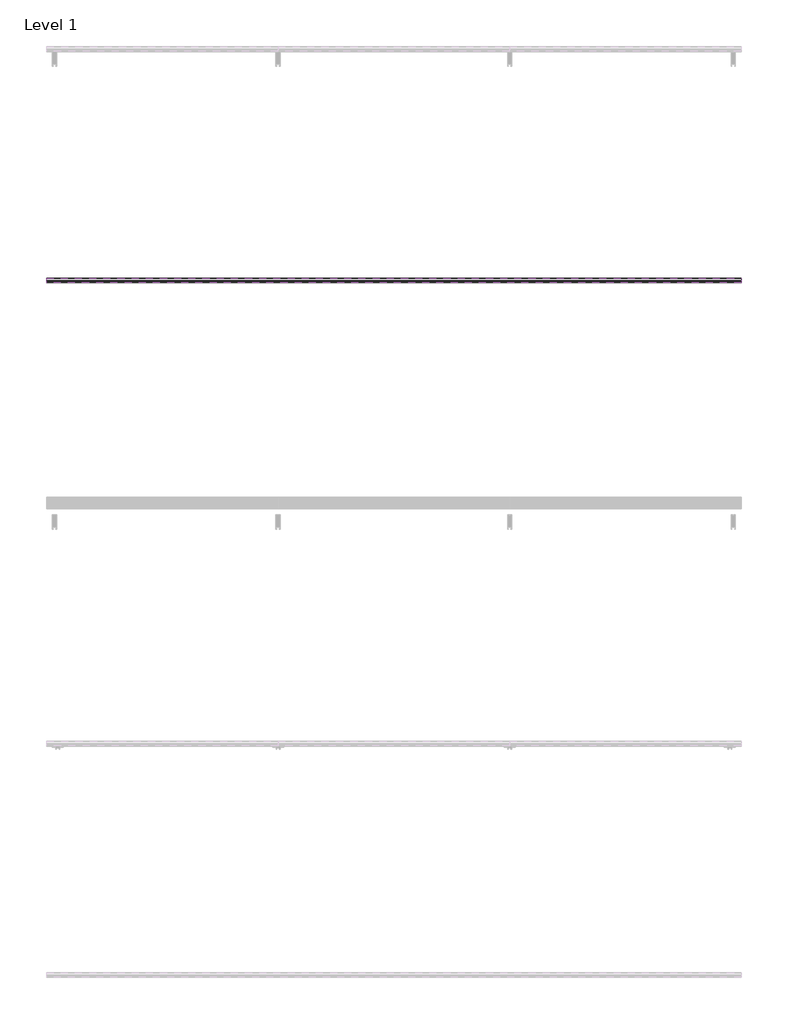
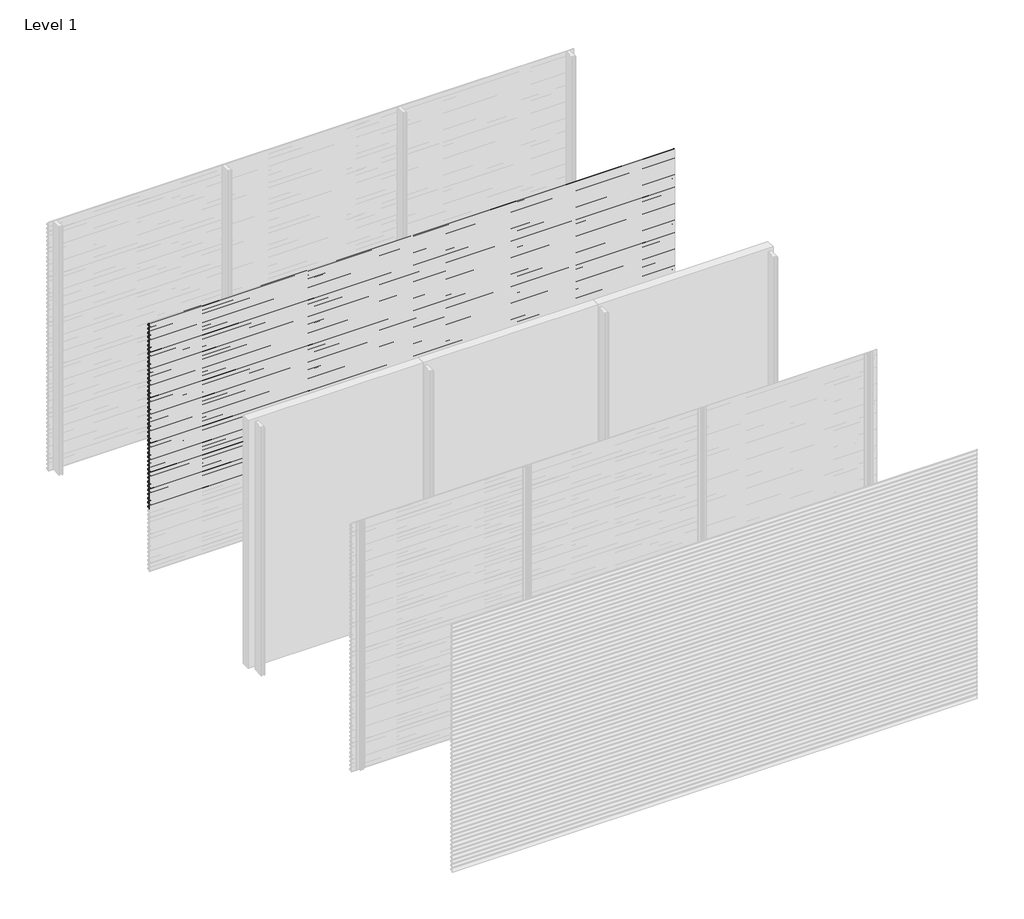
# One storey, part 6 of 38: 66 proxies.
"""IFC4 building model written with IfcOpenShell, lengths in millimetres."""

from ifc_helpers import new_model, si_unit, frame, origin, place, context, project, spatial, polyline, outline, extrude, element, save

model = new_model("IFC4")

# Units and contexts
model_context = context("Model", 3, world=origin())
ifc_project = project(units=[si_unit("LENGTHUNIT", "METRE", prefix="MILLI")], contexts=[model_context])

# Site, building, storey
site = spatial("IfcSite", under=ifc_project)
building = spatial("IfcBuilding", under=site)
storey = spatial("IfcBuildingStorey", under=building, Name="Level 1", Elevation=0.0)

# Proxies
placement = place(None, origin())
element("IfcBuildingElementProxy", 1, Name="Wall Sweeps", at=placement, inside=storey, context=model_context, shape_type="SweptSolid", body=[
    extrude(outline(polyline([(-49996.75, 3000.0), (-49996.75, 2989.19656), (-49974.6057113, 2976.4115489), (-49957.0, 2959.0472005), (-49957.0, 2944.0472005), (-49958.3, 2945.0268207), (-49958.3, 2958.5034593), (-49969.4914725, 2969.541504), (-49994.2797376, 2940.0), (-49995.9767671, 2940.0), (-49970.4200307, 2970.4573323), (-49975.3999793, 2975.3690091), (-49998.0, 2988.4171371), (-49998.0, 3000.0), (-49996.75, 3000.0)])), frame((0.0, 0.0, 0.0), z_axis=(1.0, 0.0, 0.0), x_axis=(0.0, 1.0, 0.0)), (0.0, 0.0, 1.0), 6000.0),
])
element("IfcBuildingElementProxy", 2, Name="Wall Sweeps", at=placement, inside=storey, context=model_context, shape_type="SweptSolid", body=[
    extrude(outline(polyline([(-49996.75, 2950.0), (-49996.75, 2939.19656), (-49974.6057113, 2926.4115489), (-49957.0, 2909.0472005), (-49957.0, 2894.0472005), (-49958.3, 2895.0268207), (-49958.3, 2908.5034593), (-49969.4914725, 2919.541504), (-49994.2797376, 2890.0), (-49995.9767671, 2890.0), (-49970.4200307, 2920.4573323), (-49975.3999793, 2925.3690091), (-49998.0, 2938.4171371), (-49998.0, 2950.0), (-49996.75, 2950.0)])), frame((0.0, 0.0, 0.0), z_axis=(1.0, 0.0, 0.0), x_axis=(0.0, 1.0, 0.0)), (0.0, 0.0, 1.0), 6000.0),
])
element("IfcBuildingElementProxy", 3, Name="Wall Sweeps", at=placement, inside=storey, context=model_context, shape_type="SweptSolid", body=[
    extrude(outline(polyline([(-49996.75, 2900.0), (-49996.75, 2889.19656), (-49974.6057113, 2876.4115489), (-49957.0, 2859.0472005), (-49957.0, 2844.0472005), (-49958.3, 2845.0268207), (-49958.3, 2858.5034593), (-49969.4914725, 2869.541504), (-49994.2797376, 2840.0), (-49995.9767671, 2840.0), (-49970.4200307, 2870.4573323), (-49975.3999793, 2875.3690091), (-49998.0, 2888.4171371), (-49998.0, 2900.0), (-49996.75, 2900.0)])), frame((0.0, 0.0, 0.0), z_axis=(1.0, 0.0, 0.0), x_axis=(0.0, 1.0, 0.0)), (0.0, 0.0, 1.0), 6000.0),
])
element("IfcBuildingElementProxy", 4, Name="Wall Sweeps", at=placement, inside=storey, context=model_context, shape_type="SweptSolid", body=[
    extrude(outline(polyline([(-49996.75, 2850.0), (-49996.75, 2839.19656), (-49974.6057113, 2826.4115489), (-49957.0, 2809.0472005), (-49957.0, 2794.0472005), (-49958.3, 2795.0268207), (-49958.3, 2808.5034593), (-49969.4914725, 2819.541504), (-49994.2797376, 2790.0), (-49995.9767671, 2790.0), (-49970.4200307, 2820.4573323), (-49975.3999793, 2825.3690091), (-49998.0, 2838.4171371), (-49998.0, 2850.0), (-49996.75, 2850.0)])), frame((0.0, 0.0, 0.0), z_axis=(1.0, 0.0, 0.0), x_axis=(0.0, 1.0, 0.0)), (0.0, 0.0, 1.0), 6000.0),
])
element("IfcBuildingElementProxy", 5, Name="Wall Sweeps", at=placement, inside=storey, context=model_context, shape_type="SweptSolid", body=[
    extrude(outline(polyline([(-49996.75, 2800.0), (-49996.75, 2789.19656), (-49974.6057113, 2776.4115489), (-49957.0, 2759.0472005), (-49957.0, 2744.0472005), (-49958.3, 2745.0268207), (-49958.3, 2758.5034593), (-49969.4914725, 2769.541504), (-49994.2797376, 2740.0), (-49995.9767671, 2740.0), (-49970.4200307, 2770.4573323), (-49975.3999793, 2775.3690091), (-49998.0, 2788.4171371), (-49998.0, 2800.0), (-49996.75, 2800.0)])), frame((0.0, 0.0, 0.0), z_axis=(1.0, 0.0, 0.0), x_axis=(0.0, 1.0, 0.0)), (0.0, 0.0, 1.0), 6000.0),
])
element("IfcBuildingElementProxy", 6, Name="Wall Sweeps", at=placement, inside=storey, context=model_context, shape_type="SweptSolid", body=[
    extrude(outline(polyline([(-49996.75, 2750.0), (-49996.75, 2739.19656), (-49974.6057113, 2726.4115489), (-49957.0, 2709.0472005), (-49957.0, 2694.0472005), (-49958.3, 2695.0268207), (-49958.3, 2708.5034593), (-49969.4914725, 2719.541504), (-49994.2797376, 2690.0), (-49995.9767671, 2690.0), (-49970.4200307, 2720.4573323), (-49975.3999793, 2725.3690091), (-49998.0, 2738.4171371), (-49998.0, 2750.0), (-49996.75, 2750.0)])), frame((0.0, 0.0, 0.0), z_axis=(1.0, 0.0, 0.0), x_axis=(0.0, 1.0, 0.0)), (0.0, 0.0, 1.0), 6000.0),
])
element("IfcBuildingElementProxy", 7, Name="Wall Sweeps", at=placement, inside=storey, context=model_context, shape_type="SweptSolid", body=[
    extrude(outline(polyline([(-49996.75, 2700.0), (-49996.75, 2689.19656), (-49974.6057113, 2676.4115489), (-49957.0, 2659.0472005), (-49957.0, 2644.0472005), (-49958.3, 2645.0268207), (-49958.3, 2658.5034593), (-49969.4914725, 2669.541504), (-49994.2797376, 2640.0), (-49995.9767671, 2640.0), (-49970.4200307, 2670.4573323), (-49975.3999793, 2675.3690091), (-49998.0, 2688.4171371), (-49998.0, 2700.0), (-49996.75, 2700.0)])), frame((0.0, 0.0, 0.0), z_axis=(1.0, 0.0, 0.0), x_axis=(0.0, 1.0, 0.0)), (0.0, 0.0, 1.0), 6000.0),
])
element("IfcBuildingElementProxy", 8, Name="Wall Sweeps", at=placement, inside=storey, context=model_context, shape_type="SweptSolid", body=[
    extrude(outline(polyline([(-49996.75, 2650.0), (-49996.75, 2639.19656), (-49974.6057113, 2626.4115489), (-49957.0, 2609.0472005), (-49957.0, 2594.0472005), (-49958.3, 2595.0268207), (-49958.3, 2608.5034593), (-49969.4914725, 2619.541504), (-49994.2797376, 2590.0), (-49995.9767671, 2590.0), (-49970.4200307, 2620.4573323), (-49975.3999793, 2625.3690091), (-49998.0, 2638.4171371), (-49998.0, 2650.0), (-49996.75, 2650.0)])), frame((0.0, 0.0, 0.0), z_axis=(1.0, 0.0, 0.0), x_axis=(0.0, 1.0, 0.0)), (0.0, 0.0, 1.0), 6000.0),
])
element("IfcBuildingElementProxy", 9, Name="Wall Sweeps", at=placement, inside=storey, context=model_context, shape_type="SweptSolid", body=[
    extrude(outline(polyline([(-49996.75, 2600.0), (-49996.75, 2589.19656), (-49974.6057113, 2576.4115489), (-49957.0, 2559.0472005), (-49957.0, 2544.0472005), (-49958.3, 2545.0268207), (-49958.3, 2558.5034593), (-49969.4914725, 2569.541504), (-49994.2797376, 2540.0), (-49995.9767671, 2540.0), (-49970.4200307, 2570.4573323), (-49975.3999793, 2575.3690091), (-49998.0, 2588.4171371), (-49998.0, 2600.0), (-49996.75, 2600.0)])), frame((0.0, 0.0, 0.0), z_axis=(1.0, 0.0, 0.0), x_axis=(0.0, 1.0, 0.0)), (0.0, 0.0, 1.0), 6000.0),
])
element("IfcBuildingElementProxy", 10, Name="Wall Sweeps", at=placement, inside=storey, context=model_context, shape_type="SweptSolid", body=[
    extrude(outline(polyline([(-49996.75, 2550.0), (-49996.75, 2539.19656), (-49974.6057113, 2526.4115489), (-49957.0, 2509.0472005), (-49957.0, 2494.0472005), (-49958.3, 2495.0268207), (-49958.3, 2508.5034593), (-49969.4914725, 2519.541504), (-49994.2797376, 2490.0), (-49995.9767671, 2490.0), (-49970.4200307, 2520.4573323), (-49975.3999793, 2525.3690091), (-49998.0, 2538.4171371), (-49998.0, 2550.0), (-49996.75, 2550.0)])), frame((0.0, 0.0, 0.0), z_axis=(1.0, 0.0, 0.0), x_axis=(0.0, 1.0, 0.0)), (0.0, 0.0, 1.0), 6000.0),
])
element("IfcBuildingElementProxy", 11, Name="Wall Sweeps", at=placement, inside=storey, context=model_context, shape_type="SweptSolid", body=[
    extrude(outline(polyline([(-49996.75, 2500.0), (-49996.75, 2489.19656), (-49974.6057113, 2476.4115489), (-49957.0, 2459.0472005), (-49957.0, 2444.0472005), (-49958.3, 2445.0268207), (-49958.3, 2458.5034593), (-49969.4914725, 2469.541504), (-49994.2797376, 2440.0), (-49995.9767671, 2440.0), (-49970.4200307, 2470.4573323), (-49975.3999793, 2475.3690091), (-49998.0, 2488.4171371), (-49998.0, 2500.0), (-49996.75, 2500.0)])), frame((0.0, 0.0, 0.0), z_axis=(1.0, 0.0, 0.0), x_axis=(0.0, 1.0, 0.0)), (0.0, 0.0, 1.0), 6000.0),
])
element("IfcBuildingElementProxy", 12, Name="Wall Sweeps", at=placement, inside=storey, context=model_context, shape_type="SweptSolid", body=[
    extrude(outline(polyline([(-49996.75, 2450.0), (-49996.75, 2439.19656), (-49974.6057113, 2426.4115489), (-49957.0, 2409.0472005), (-49957.0, 2394.0472005), (-49958.3, 2395.0268207), (-49958.3, 2408.5034593), (-49969.4914725, 2419.541504), (-49994.2797376, 2390.0), (-49995.9767671, 2390.0), (-49970.4200307, 2420.4573323), (-49975.3999793, 2425.3690091), (-49998.0, 2438.4171371), (-49998.0, 2450.0), (-49996.75, 2450.0)])), frame((0.0, 0.0, 0.0), z_axis=(1.0, 0.0, 0.0), x_axis=(0.0, 1.0, 0.0)), (0.0, 0.0, 1.0), 6000.0),
])
element("IfcBuildingElementProxy", 13, Name="Wall Sweeps", at=placement, inside=storey, context=model_context, shape_type="SweptSolid", body=[
    extrude(outline(polyline([(-49996.75, 2400.0), (-49996.75, 2389.19656), (-49974.6057113, 2376.4115489), (-49957.0, 2359.0472005), (-49957.0, 2344.0472005), (-49958.3, 2345.0268207), (-49958.3, 2358.5034593), (-49969.4914725, 2369.541504), (-49994.2797376, 2340.0), (-49995.9767671, 2340.0), (-49970.4200307, 2370.4573323), (-49975.3999793, 2375.3690091), (-49998.0, 2388.4171371), (-49998.0, 2400.0), (-49996.75, 2400.0)])), frame((0.0, 0.0, 0.0), z_axis=(1.0, 0.0, 0.0), x_axis=(0.0, 1.0, 0.0)), (0.0, 0.0, 1.0), 6000.0),
])
element("IfcBuildingElementProxy", 14, Name="Wall Sweeps", at=placement, inside=storey, context=model_context, shape_type="SweptSolid", body=[
    extrude(outline(polyline([(-49996.75, 2350.0), (-49996.75, 2339.19656), (-49974.6057113, 2326.4115489), (-49957.0, 2309.0472005), (-49957.0, 2294.0472005), (-49958.3, 2295.0268207), (-49958.3, 2308.5034593), (-49969.4914725, 2319.541504), (-49994.2797376, 2290.0), (-49995.9767671, 2290.0), (-49970.4200307, 2320.4573323), (-49975.3999793, 2325.3690091), (-49998.0, 2338.4171371), (-49998.0, 2350.0), (-49996.75, 2350.0)])), frame((0.0, 0.0, 0.0), z_axis=(1.0, 0.0, 0.0), x_axis=(0.0, 1.0, 0.0)), (0.0, 0.0, 1.0), 6000.0),
])
element("IfcBuildingElementProxy", 15, Name="Wall Sweeps", at=placement, inside=storey, context=model_context, shape_type="SweptSolid", body=[
    extrude(outline(polyline([(-49996.75, 2300.0), (-49996.75, 2289.19656), (-49974.6057113, 2276.4115489), (-49957.0, 2259.0472005), (-49957.0, 2244.0472005), (-49958.3, 2245.0268207), (-49958.3, 2258.5034593), (-49969.4914725, 2269.541504), (-49994.2797376, 2240.0), (-49995.9767671, 2240.0), (-49970.4200307, 2270.4573323), (-49975.3999793, 2275.3690091), (-49998.0, 2288.4171371), (-49998.0, 2300.0), (-49996.75, 2300.0)])), frame((0.0, 0.0, 0.0), z_axis=(1.0, 0.0, 0.0), x_axis=(0.0, 1.0, 0.0)), (0.0, 0.0, 1.0), 6000.0),
])
element("IfcBuildingElementProxy", 16, Name="Wall Sweeps", at=placement, inside=storey, context=model_context, shape_type="SweptSolid", body=[
    extrude(outline(polyline([(-49996.75, 2250.0), (-49996.75, 2239.19656), (-49974.6057113, 2226.4115489), (-49957.0, 2209.0472005), (-49957.0, 2194.0472005), (-49958.3, 2195.0268207), (-49958.3, 2208.5034593), (-49969.4914725, 2219.541504), (-49994.2797376, 2190.0), (-49995.9767671, 2190.0), (-49970.4200307, 2220.4573323), (-49975.3999793, 2225.3690091), (-49998.0, 2238.4171371), (-49998.0, 2250.0), (-49996.75, 2250.0)])), frame((0.0, 0.0, 0.0), z_axis=(1.0, 0.0, 0.0), x_axis=(0.0, 1.0, 0.0)), (0.0, 0.0, 1.0), 6000.0),
])
element("IfcBuildingElementProxy", 17, Name="Wall Sweeps", at=placement, inside=storey, context=model_context, shape_type="SweptSolid", body=[
    extrude(outline(polyline([(-49996.75, 2200.0), (-49996.75, 2189.19656), (-49974.6057113, 2176.4115489), (-49957.0, 2159.0472005), (-49957.0, 2144.0472005), (-49958.3, 2145.0268207), (-49958.3, 2158.5034593), (-49969.4914725, 2169.541504), (-49994.2797376, 2140.0), (-49995.9767671, 2140.0), (-49970.4200307, 2170.4573323), (-49975.3999793, 2175.3690091), (-49998.0, 2188.4171371), (-49998.0, 2200.0), (-49996.75, 2200.0)])), frame((0.0, 0.0, 0.0), z_axis=(1.0, 0.0, 0.0), x_axis=(0.0, 1.0, 0.0)), (0.0, 0.0, 1.0), 6000.0),
])
element("IfcBuildingElementProxy", 18, Name="Wall Sweeps", at=placement, inside=storey, context=model_context, shape_type="SweptSolid", body=[
    extrude(outline(polyline([(-49996.75, 2150.0), (-49996.75, 2139.19656), (-49974.6057113, 2126.4115489), (-49957.0, 2109.0472005), (-49957.0, 2094.0472005), (-49958.3, 2095.0268207), (-49958.3, 2108.5034593), (-49969.4914725, 2119.541504), (-49994.2797376, 2090.0), (-49995.9767671, 2090.0), (-49970.4200307, 2120.4573323), (-49975.3999793, 2125.3690091), (-49998.0, 2138.4171371), (-49998.0, 2150.0), (-49996.75, 2150.0)])), frame((0.0, 0.0, 0.0), z_axis=(1.0, 0.0, 0.0), x_axis=(0.0, 1.0, 0.0)), (0.0, 0.0, 1.0), 6000.0),
])
element("IfcBuildingElementProxy", 19, Name="Wall Sweeps", at=placement, inside=storey, context=model_context, shape_type="SweptSolid", body=[
    extrude(outline(polyline([(-49996.75, 2100.0), (-49996.75, 2089.19656), (-49974.6057113, 2076.4115489), (-49957.0, 2059.0472005), (-49957.0, 2044.0472005), (-49958.3, 2045.0268207), (-49958.3, 2058.5034593), (-49969.4914725, 2069.541504), (-49994.2797376, 2040.0), (-49995.9767671, 2040.0), (-49970.4200307, 2070.4573323), (-49975.3999793, 2075.3690091), (-49998.0, 2088.4171371), (-49998.0, 2100.0), (-49996.75, 2100.0)])), frame((0.0, 0.0, 0.0), z_axis=(1.0, 0.0, 0.0), x_axis=(0.0, 1.0, 0.0)), (0.0, 0.0, 1.0), 6000.0),
])
element("IfcBuildingElementProxy", 20, Name="Wall Sweeps", at=placement, inside=storey, context=model_context, shape_type="SweptSolid", body=[
    extrude(outline(polyline([(-49996.75, 2050.0), (-49996.75, 2039.19656), (-49974.6057113, 2026.4115489), (-49957.0, 2009.0472005), (-49957.0, 1994.0472005), (-49958.3, 1995.0268207), (-49958.3, 2008.5034593), (-49969.4914725, 2019.541504), (-49994.2797376, 1990.0), (-49995.9767671, 1990.0), (-49970.4200307, 2020.4573323), (-49975.3999793, 2025.3690091), (-49998.0, 2038.4171371), (-49998.0, 2050.0), (-49996.75, 2050.0)])), frame((0.0, 0.0, 0.0), z_axis=(1.0, 0.0, 0.0), x_axis=(0.0, 1.0, 0.0)), (0.0, 0.0, 1.0), 6000.0),
])
element("IfcBuildingElementProxy", 21, Name="Wall Sweeps", at=placement, inside=storey, context=model_context, shape_type="SweptSolid", body=[
    extrude(outline(polyline([(-49996.75, 2000.0), (-49996.75, 1989.19656), (-49974.6057113, 1976.4115489), (-49957.0, 1959.0472005), (-49957.0, 1944.0472005), (-49958.3, 1945.0268207), (-49958.3, 1958.5034593), (-49969.4914725, 1969.541504), (-49994.2797376, 1940.0), (-49995.9767671, 1940.0), (-49970.4200307, 1970.4573323), (-49975.3999793, 1975.3690091), (-49998.0, 1988.4171371), (-49998.0, 2000.0), (-49996.75, 2000.0)])), frame((0.0, 0.0, 0.0), z_axis=(1.0, 0.0, 0.0), x_axis=(0.0, 1.0, 0.0)), (0.0, 0.0, 1.0), 6000.0),
])
element("IfcBuildingElementProxy", 22, Name="Wall Sweeps", at=placement, inside=storey, context=model_context, shape_type="SweptSolid", body=[
    extrude(outline(polyline([(-49996.75, 1950.0), (-49996.75, 1939.19656), (-49974.6057113, 1926.4115489), (-49957.0, 1909.0472005), (-49957.0, 1894.0472005), (-49958.3, 1895.0268207), (-49958.3, 1908.5034593), (-49969.4914725, 1919.541504), (-49994.2797376, 1890.0), (-49995.9767671, 1890.0), (-49970.4200307, 1920.4573323), (-49975.3999793, 1925.3690091), (-49998.0, 1938.4171371), (-49998.0, 1950.0), (-49996.75, 1950.0)])), frame((0.0, 0.0, 0.0), z_axis=(1.0, 0.0, 0.0), x_axis=(0.0, 1.0, 0.0)), (0.0, 0.0, 1.0), 6000.0),
])
element("IfcBuildingElementProxy", 23, Name="Wall Sweeps", at=placement, inside=storey, context=model_context, shape_type="SweptSolid", body=[
    extrude(outline(polyline([(-49996.75, 1900.0), (-49996.75, 1889.19656), (-49974.6057113, 1876.4115489), (-49957.0, 1859.0472005), (-49957.0, 1844.0472005), (-49958.3, 1845.0268207), (-49958.3, 1858.5034593), (-49969.4914725, 1869.541504), (-49994.2797376, 1840.0), (-49995.9767671, 1840.0), (-49970.4200307, 1870.4573323), (-49975.3999793, 1875.3690091), (-49998.0, 1888.4171371), (-49998.0, 1900.0), (-49996.75, 1900.0)])), frame((0.0, 0.0, 0.0), z_axis=(1.0, 0.0, 0.0), x_axis=(0.0, 1.0, 0.0)), (0.0, 0.0, 1.0), 6000.0),
])
element("IfcBuildingElementProxy", 24, Name="Wall Sweeps", at=placement, inside=storey, context=model_context, shape_type="SweptSolid", body=[
    extrude(outline(polyline([(-49996.75, 1850.0), (-49996.75, 1839.19656), (-49974.6057113, 1826.4115489), (-49957.0, 1809.0472005), (-49957.0, 1794.0472005), (-49958.3, 1795.0268207), (-49958.3, 1808.5034593), (-49969.4914725, 1819.541504), (-49994.2797376, 1790.0), (-49995.9767671, 1790.0), (-49970.4200307, 1820.4573323), (-49975.3999793, 1825.3690091), (-49998.0, 1838.4171371), (-49998.0, 1850.0), (-49996.75, 1850.0)])), frame((0.0, 0.0, 0.0), z_axis=(1.0, 0.0, 0.0), x_axis=(0.0, 1.0, 0.0)), (0.0, 0.0, 1.0), 6000.0),
])
element("IfcBuildingElementProxy", 25, Name="Wall Sweeps", at=placement, inside=storey, context=model_context, shape_type="SweptSolid", body=[
    extrude(outline(polyline([(-49996.75, 1800.0), (-49996.75, 1789.19656), (-49974.6057113, 1776.4115489), (-49957.0, 1759.0472005), (-49957.0, 1744.0472005), (-49958.3, 1745.0268207), (-49958.3, 1758.5034593), (-49969.4914725, 1769.541504), (-49994.2797376, 1740.0), (-49995.9767671, 1740.0), (-49970.4200307, 1770.4573323), (-49975.3999793, 1775.3690091), (-49998.0, 1788.4171371), (-49998.0, 1800.0), (-49996.75, 1800.0)])), frame((0.0, 0.0, 0.0), z_axis=(1.0, 0.0, 0.0), x_axis=(0.0, 1.0, 0.0)), (0.0, 0.0, 1.0), 6000.0),
])
element("IfcBuildingElementProxy", 26, Name="Wall Sweeps", at=placement, inside=storey, context=model_context, shape_type="SweptSolid", body=[
    extrude(outline(polyline([(-49996.75, 1750.0), (-49996.75, 1739.19656), (-49974.6057113, 1726.4115489), (-49957.0, 1709.0472005), (-49957.0, 1694.0472005), (-49958.3, 1695.0268207), (-49958.3, 1708.5034593), (-49969.4914725, 1719.541504), (-49994.2797376, 1690.0), (-49995.9767671, 1690.0), (-49970.4200307, 1720.4573323), (-49975.3999793, 1725.3690091), (-49998.0, 1738.4171371), (-49998.0, 1750.0), (-49996.75, 1750.0)])), frame((0.0, 0.0, 0.0), z_axis=(1.0, 0.0, 0.0), x_axis=(0.0, 1.0, 0.0)), (0.0, 0.0, 1.0), 6000.0),
])
element("IfcBuildingElementProxy", 27, Name="Wall Sweeps", at=placement, inside=storey, context=model_context, shape_type="SweptSolid", body=[
    extrude(outline(polyline([(-49996.75, 1700.0), (-49996.75, 1689.19656), (-49974.6057113, 1676.4115489), (-49957.0, 1659.0472005), (-49957.0, 1644.0472005), (-49958.3, 1645.0268207), (-49958.3, 1658.5034593), (-49969.4914725, 1669.541504), (-49994.2797376, 1640.0), (-49995.9767671, 1640.0), (-49970.4200307, 1670.4573323), (-49975.3999793, 1675.3690091), (-49998.0, 1688.4171371), (-49998.0, 1700.0), (-49996.75, 1700.0)])), frame((0.0, 0.0, 0.0), z_axis=(1.0, 0.0, 0.0), x_axis=(0.0, 1.0, 0.0)), (0.0, 0.0, 1.0), 6000.0),
])
element("IfcBuildingElementProxy", 28, Name="Wall Sweeps", at=placement, inside=storey, context=model_context, shape_type="SweptSolid", body=[
    extrude(outline(polyline([(-49996.75, 1650.0), (-49996.75, 1639.19656), (-49974.6057113, 1626.4115489), (-49957.0, 1609.0472005), (-49957.0, 1594.0472005), (-49958.3, 1595.0268207), (-49958.3, 1608.5034593), (-49969.4914725, 1619.541504), (-49994.2797376, 1590.0), (-49995.9767671, 1590.0), (-49970.4200307, 1620.4573323), (-49975.3999793, 1625.3690091), (-49998.0, 1638.4171371), (-49998.0, 1650.0), (-49996.75, 1650.0)])), frame((0.0, 0.0, 0.0), z_axis=(1.0, 0.0, 0.0), x_axis=(0.0, 1.0, 0.0)), (0.0, 0.0, 1.0), 6000.0),
])
element("IfcBuildingElementProxy", 29, Name="Wall Sweeps", at=placement, inside=storey, context=model_context, shape_type="SweptSolid", body=[
    extrude(outline(polyline([(-49996.75, 1600.0), (-49996.75, 1589.19656), (-49974.6057113, 1576.4115489), (-49957.0, 1559.0472005), (-49957.0, 1544.0472005), (-49958.3, 1545.0268207), (-49958.3, 1558.5034593), (-49969.4914725, 1569.541504), (-49994.2797376, 1540.0), (-49995.9767671, 1540.0), (-49970.4200307, 1570.4573323), (-49975.3999793, 1575.3690091), (-49998.0, 1588.4171371), (-49998.0, 1600.0), (-49996.75, 1600.0)])), frame((0.0, 0.0, 0.0), z_axis=(1.0, 0.0, 0.0), x_axis=(0.0, 1.0, 0.0)), (0.0, 0.0, 1.0), 6000.0),
])
element("IfcBuildingElementProxy", 30, Name="Wall Sweeps", at=placement, inside=storey, context=model_context, shape_type="SweptSolid", body=[
    extrude(outline(polyline([(-49996.75, 1550.0), (-49996.75, 1539.19656), (-49974.6057113, 1526.4115489), (-49957.0, 1509.0472005), (-49957.0, 1494.0472005), (-49958.3, 1495.0268207), (-49958.3, 1508.5034593), (-49969.4914725, 1519.541504), (-49994.2797376, 1490.0), (-49995.9767671, 1490.0), (-49970.4200307, 1520.4573323), (-49975.3999793, 1525.3690091), (-49998.0, 1538.4171371), (-49998.0, 1550.0), (-49996.75, 1550.0)])), frame((0.0, 0.0, 0.0), z_axis=(1.0, 0.0, 0.0), x_axis=(0.0, 1.0, 0.0)), (0.0, 0.0, 1.0), 6000.0),
])
element("IfcBuildingElementProxy", 31, Name="Wall Sweeps", at=placement, inside=storey, context=model_context, shape_type="SweptSolid", body=[
    extrude(outline(polyline([(-49996.75, 1500.0), (-49996.75, 1489.19656), (-49974.6057113, 1476.4115489), (-49957.0, 1459.0472005), (-49957.0, 1444.0472005), (-49958.3, 1445.0268207), (-49958.3, 1458.5034593), (-49969.4914725, 1469.541504), (-49994.2797376, 1440.0), (-49995.9767671, 1440.0), (-49970.4200307, 1470.4573323), (-49975.3999793, 1475.3690091), (-49998.0, 1488.4171371), (-49998.0, 1500.0), (-49996.75, 1500.0)])), frame((0.0, 0.0, 0.0), z_axis=(1.0, 0.0, 0.0), x_axis=(0.0, 1.0, 0.0)), (0.0, 0.0, 1.0), 6000.0),
])
element("IfcBuildingElementProxy", 32, Name="Wall Sweeps", at=placement, inside=storey, context=model_context, shape_type="SweptSolid", body=[
    extrude(outline(polyline([(-49996.75, 1450.0), (-49996.75, 1439.19656), (-49974.6057113, 1426.4115489), (-49957.0, 1409.0472005), (-49957.0, 1394.0472005), (-49958.3, 1395.0268207), (-49958.3, 1408.5034593), (-49969.4914725, 1419.541504), (-49994.2797376, 1390.0), (-49995.9767671, 1390.0), (-49970.4200307, 1420.4573323), (-49975.3999793, 1425.3690091), (-49998.0, 1438.4171371), (-49998.0, 1450.0), (-49996.75, 1450.0)])), frame((0.0, 0.0, 0.0), z_axis=(1.0, 0.0, 0.0), x_axis=(0.0, 1.0, 0.0)), (0.0, 0.0, 1.0), 6000.0),
])
element("IfcBuildingElementProxy", 33, Name="Wall Sweeps", at=placement, inside=storey, context=model_context, shape_type="SweptSolid", body=[
    extrude(outline(polyline([(-49996.75, 1400.0), (-49996.75, 1389.19656), (-49974.6057113, 1376.4115489), (-49957.0, 1359.0472005), (-49957.0, 1344.0472005), (-49958.3, 1345.0268207), (-49958.3, 1358.5034593), (-49969.4914725, 1369.541504), (-49994.2797376, 1340.0), (-49995.9767671, 1340.0), (-49970.4200307, 1370.4573323), (-49975.3999793, 1375.3690091), (-49998.0, 1388.4171371), (-49998.0, 1400.0), (-49996.75, 1400.0)])), frame((0.0, 0.0, 0.0), z_axis=(1.0, 0.0, 0.0), x_axis=(0.0, 1.0, 0.0)), (0.0, 0.0, 1.0), 6000.0),
])
element("IfcBuildingElementProxy", 34, Name="Wall Sweeps", at=placement, inside=storey, context=model_context, shape_type="SweptSolid", body=[
    extrude(outline(polyline([(-49996.75, 1350.0), (-49996.75, 1339.19656), (-49974.6057113, 1326.4115489), (-49957.0, 1309.0472005), (-49957.0, 1294.0472005), (-49958.3, 1295.0268207), (-49958.3, 1308.5034593), (-49969.4914725, 1319.541504), (-49994.2797376, 1290.0), (-49995.9767671, 1290.0), (-49970.4200307, 1320.4573323), (-49975.3999793, 1325.3690091), (-49998.0, 1338.4171371), (-49998.0, 1350.0), (-49996.75, 1350.0)])), frame((0.0, 0.0, 0.0), z_axis=(1.0, 0.0, 0.0), x_axis=(0.0, 1.0, 0.0)), (0.0, 0.0, 1.0), 6000.0),
])
element("IfcBuildingElementProxy", 35, Name="Wall Sweeps", at=placement, inside=storey, context=model_context, shape_type="SweptSolid", body=[
    extrude(outline(polyline([(-49996.75, 1300.0), (-49996.75, 1289.19656), (-49974.6057113, 1276.4115489), (-49957.0, 1259.0472005), (-49957.0, 1244.0472005), (-49958.3, 1245.0268207), (-49958.3, 1258.5034593), (-49969.4914725, 1269.541504), (-49994.2797376, 1240.0), (-49995.9767671, 1240.0), (-49970.4200307, 1270.4573323), (-49975.3999793, 1275.3690091), (-49998.0, 1288.4171371), (-49998.0, 1300.0), (-49996.75, 1300.0)])), frame((0.0, 0.0, 0.0), z_axis=(1.0, 0.0, 0.0), x_axis=(0.0, 1.0, 0.0)), (0.0, 0.0, 1.0), 6000.0),
])
element("IfcBuildingElementProxy", 36, Name="Wall Sweeps", at=placement, inside=storey, context=model_context, shape_type="SweptSolid", body=[
    extrude(outline(polyline([(-49996.75, 1250.0), (-49996.75, 1239.19656), (-49974.6057113, 1226.4115489), (-49957.0, 1209.0472005), (-49957.0, 1194.0472005), (-49958.3, 1195.0268207), (-49958.3, 1208.5034593), (-49969.4914725, 1219.541504), (-49994.2797376, 1190.0), (-49995.9767671, 1190.0), (-49970.4200307, 1220.4573323), (-49975.3999793, 1225.3690091), (-49998.0, 1238.4171371), (-49998.0, 1250.0), (-49996.75, 1250.0)])), frame((0.0, 0.0, 0.0), z_axis=(1.0, 0.0, 0.0), x_axis=(0.0, 1.0, 0.0)), (0.0, 0.0, 1.0), 6000.0),
])
element("IfcBuildingElementProxy", 37, Name="Wall Sweeps", at=placement, inside=storey, context=model_context, shape_type="SweptSolid", body=[
    extrude(outline(polyline([(-49996.75, 1200.0), (-49996.75, 1189.19656), (-49974.6057113, 1176.4115489), (-49957.0, 1159.0472005), (-49957.0, 1144.0472005), (-49958.3, 1145.0268207), (-49958.3, 1158.5034593), (-49969.4914725, 1169.541504), (-49994.2797376, 1140.0), (-49995.9767671, 1140.0), (-49970.4200307, 1170.4573323), (-49975.3999793, 1175.3690091), (-49998.0, 1188.4171371), (-49998.0, 1200.0), (-49996.75, 1200.0)])), frame((0.0, 0.0, 0.0), z_axis=(1.0, 0.0, 0.0), x_axis=(0.0, 1.0, 0.0)), (0.0, 0.0, 1.0), 6000.0),
])
element("IfcBuildingElementProxy", 38, Name="Wall Sweeps", at=placement, inside=storey, context=model_context, shape_type="SweptSolid", body=[
    extrude(outline(polyline([(-49996.75, 1150.0), (-49996.75, 1139.19656), (-49974.6057113, 1126.4115489), (-49957.0, 1109.0472005), (-49957.0, 1094.0472005), (-49958.3, 1095.0268207), (-49958.3, 1108.5034593), (-49969.4914725, 1119.541504), (-49994.2797376, 1090.0), (-49995.9767671, 1090.0), (-49970.4200307, 1120.4573323), (-49975.3999793, 1125.3690091), (-49998.0, 1138.4171371), (-49998.0, 1150.0), (-49996.75, 1150.0)])), frame((0.0, 0.0, 0.0), z_axis=(1.0, 0.0, 0.0), x_axis=(0.0, 1.0, 0.0)), (0.0, 0.0, 1.0), 6000.0),
])
element("IfcBuildingElementProxy", 39, Name="Wall Sweeps", at=placement, inside=storey, context=model_context, shape_type="SweptSolid", body=[
    extrude(outline(polyline([(-49996.75, 1100.0), (-49996.75, 1089.19656), (-49974.6057113, 1076.4115489), (-49957.0, 1059.0472005), (-49957.0, 1044.0472005), (-49958.3, 1045.0268207), (-49958.3, 1058.5034593), (-49969.4914725, 1069.541504), (-49994.2797376, 1040.0), (-49995.9767671, 1040.0), (-49970.4200307, 1070.4573323), (-49975.3999793, 1075.3690091), (-49998.0, 1088.4171371), (-49998.0, 1100.0), (-49996.75, 1100.0)])), frame((0.0, 0.0, 0.0), z_axis=(1.0, 0.0, 0.0), x_axis=(0.0, 1.0, 0.0)), (0.0, 0.0, 1.0), 6000.0),
])
element("IfcBuildingElementProxy", 40, Name="Wall Sweeps", at=placement, inside=storey, context=model_context, shape_type="SweptSolid", body=[
    extrude(outline(polyline([(-49996.75, 1050.0), (-49996.75, 1039.19656), (-49974.6057113, 1026.4115489), (-49957.0, 1009.0472005), (-49957.0, 994.0472005), (-49958.3, 995.0268207), (-49958.3, 1008.5034593), (-49969.4914725, 1019.541504), (-49994.2797376, 990.0), (-49995.9767671, 990.0), (-49970.4200307, 1020.4573323), (-49975.3999793, 1025.3690091), (-49998.0, 1038.4171371), (-49998.0, 1050.0), (-49996.75, 1050.0)])), frame((0.0, 0.0, 0.0), z_axis=(1.0, 0.0, 0.0), x_axis=(0.0, 1.0, 0.0)), (0.0, 0.0, 1.0), 6000.0),
])
element("IfcBuildingElementProxy", 41, Name="Wall Sweeps", at=placement, inside=storey, context=model_context, shape_type="SweptSolid", body=[
    extrude(outline(polyline([(-49996.75, 1000.0), (-49996.75, 989.19656), (-49974.6057113, 976.4115489), (-49957.0, 959.0472005), (-49957.0, 944.0472005), (-49958.3, 945.0268207), (-49958.3, 958.5034593), (-49969.4914725, 969.541504), (-49994.2797376, 940.0), (-49995.9767671, 940.0), (-49970.4200307, 970.4573323), (-49975.3999793, 975.3690091), (-49998.0, 988.4171371), (-49998.0, 1000.0), (-49996.75, 1000.0)])), frame((0.0, 0.0, 0.0), z_axis=(1.0, 0.0, 0.0), x_axis=(0.0, 1.0, 0.0)), (0.0, 0.0, 1.0), 6000.0),
])
element("IfcBuildingElementProxy", 42, Name="Wall Sweeps", at=placement, inside=storey, context=model_context, shape_type="SweptSolid", body=[
    extrude(outline(polyline([(-49996.75, 950.0), (-49996.75, 939.19656), (-49974.6057113, 926.4115489), (-49957.0, 909.0472005), (-49957.0, 894.0472005), (-49958.3, 895.0268207), (-49958.3, 908.5034593), (-49969.4914725, 919.541504), (-49994.2797376, 890.0), (-49995.9767671, 890.0), (-49970.4200307, 920.4573323), (-49975.3999793, 925.3690091), (-49998.0, 938.4171371), (-49998.0, 950.0), (-49996.75, 950.0)])), frame((0.0, 0.0, 0.0), z_axis=(1.0, 0.0, 0.0), x_axis=(0.0, 1.0, 0.0)), (0.0, 0.0, 1.0), 6000.0),
])
element("IfcBuildingElementProxy", 43, Name="Wall Sweeps", at=placement, inside=storey, context=model_context, shape_type="SweptSolid", body=[
    extrude(outline(polyline([(-49996.75, 900.0), (-49996.75, 889.19656), (-49974.6057113, 876.4115489), (-49957.0, 859.0472005), (-49957.0, 844.0472005), (-49958.3, 845.0268207), (-49958.3, 858.5034593), (-49969.4914725, 869.541504), (-49994.2797376, 840.0), (-49995.9767671, 840.0), (-49970.4200307, 870.4573323), (-49975.3999793, 875.3690091), (-49998.0, 888.4171371), (-49998.0, 900.0), (-49996.75, 900.0)])), frame((0.0, 0.0, 0.0), z_axis=(1.0, 0.0, 0.0), x_axis=(0.0, 1.0, 0.0)), (0.0, 0.0, 1.0), 6000.0),
])
element("IfcBuildingElementProxy", 44, Name="Wall Sweeps", at=placement, inside=storey, context=model_context, shape_type="SweptSolid", body=[
    extrude(outline(polyline([(-49996.75, 850.0), (-49996.75, 839.19656), (-49974.6057113, 826.4115489), (-49957.0, 809.0472005), (-49957.0, 794.0472005), (-49958.3, 795.0268207), (-49958.3, 808.5034593), (-49969.4914725, 819.541504), (-49994.2797376, 790.0), (-49995.9767671, 790.0), (-49970.4200307, 820.4573323), (-49975.3999793, 825.3690091), (-49998.0, 838.4171371), (-49998.0, 850.0), (-49996.75, 850.0)])), frame((0.0, 0.0, 0.0), z_axis=(1.0, 0.0, 0.0), x_axis=(0.0, 1.0, 0.0)), (0.0, 0.0, 1.0), 6000.0),
])
element("IfcBuildingElementProxy", 45, Name="Wall Sweeps", at=placement, inside=storey, context=model_context, shape_type="SweptSolid", body=[
    extrude(outline(polyline([(-49996.75, 800.0), (-49996.75, 789.19656), (-49974.6057113, 776.4115489), (-49957.0, 759.0472005), (-49957.0, 744.0472005), (-49958.3, 745.0268207), (-49958.3, 758.5034593), (-49969.4914725, 769.541504), (-49994.2797376, 740.0), (-49995.9767671, 740.0), (-49970.4200307, 770.4573323), (-49975.3999793, 775.3690091), (-49998.0, 788.4171371), (-49998.0, 800.0), (-49996.75, 800.0)])), frame((0.0, 0.0, 0.0), z_axis=(1.0, 0.0, 0.0), x_axis=(0.0, 1.0, 0.0)), (0.0, 0.0, 1.0), 6000.0),
])
element("IfcBuildingElementProxy", 46, Name="Wall Sweeps", at=placement, inside=storey, context=model_context, shape_type="SweptSolid", body=[
    extrude(outline(polyline([(-53996.75, 1050.0), (-53996.75, 1039.19656), (-53974.6057113, 1026.4115489), (-53957.0, 1009.0472005), (-53957.0, 994.0472005), (-53958.3, 995.0268207), (-53958.3, 1008.5034593), (-53969.4914725, 1019.541504), (-53994.2797376, 990.0), (-53995.9767671, 990.0), (-53970.4200307, 1020.4573323), (-53975.3999793, 1025.3690091), (-53998.0, 1038.4171371), (-53998.0, 1050.0), (-53996.75, 1050.0)])), frame((4000.0, 0.0, 0.0), z_axis=(1.0, 0.0, 0.0), x_axis=(0.0, 1.0, 0.0)), (0.0, 0.0, 1.0), 2000.0),
])
element("IfcBuildingElementProxy", 47, Name="Wall Sweeps", at=placement, inside=storey, context=model_context, shape_type="SweptSolid", body=[
    extrude(outline(polyline([(-53996.75, 1000.0), (-53996.75, 989.19656), (-53974.6057113, 976.4115489), (-53957.0, 959.0472005), (-53957.0, 944.0472005), (-53958.3, 945.0268207), (-53958.3, 958.5034593), (-53969.4914725, 969.541504), (-53994.2797376, 940.0), (-53995.9767671, 940.0), (-53970.4200307, 970.4573323), (-53975.3999793, 975.3690091), (-53998.0, 988.4171371), (-53998.0, 1000.0), (-53996.75, 1000.0)])), frame((4000.0, 0.0, 0.0), z_axis=(1.0, 0.0, 0.0), x_axis=(0.0, 1.0, 0.0)), (0.0, 0.0, 1.0), 2000.0),
])
element("IfcBuildingElementProxy", 48, Name="Wall Sweeps", at=placement, inside=storey, context=model_context, shape_type="SweptSolid", body=[
    extrude(outline(polyline([(-53996.75, 950.0), (-53996.75, 939.19656), (-53974.6057113, 926.4115489), (-53957.0, 909.0472005), (-53957.0, 894.0472005), (-53958.3, 895.0268207), (-53958.3, 908.5034593), (-53969.4914725, 919.541504), (-53994.2797376, 890.0), (-53995.9767671, 890.0), (-53970.4200307, 920.4573323), (-53975.3999793, 925.3690091), (-53998.0, 938.4171371), (-53998.0, 950.0), (-53996.75, 950.0)])), frame((4000.0, 0.0, 0.0), z_axis=(1.0, 0.0, 0.0), x_axis=(0.0, 1.0, 0.0)), (0.0, 0.0, 1.0), 2000.0),
])
element("IfcBuildingElementProxy", 49, Name="Wall Sweeps", at=placement, inside=storey, context=model_context, shape_type="SweptSolid", body=[
    extrude(outline(polyline([(-53996.75, 900.0), (-53996.75, 889.19656), (-53974.6057113, 876.4115489), (-53957.0, 859.0472005), (-53957.0, 844.0472005), (-53958.3, 845.0268207), (-53958.3, 858.5034593), (-53969.4914725, 869.541504), (-53994.2797376, 840.0), (-53995.9767671, 840.0), (-53970.4200307, 870.4573323), (-53975.3999793, 875.3690091), (-53998.0, 888.4171371), (-53998.0, 900.0), (-53996.75, 900.0)])), frame((4000.0, 0.0, 0.0), z_axis=(1.0, 0.0, 0.0), x_axis=(0.0, 1.0, 0.0)), (0.0, 0.0, 1.0), 2000.0),
])
element("IfcBuildingElementProxy", 50, Name="Wall Sweeps", at=placement, inside=storey, context=model_context, shape_type="SweptSolid", body=[
    extrude(outline(polyline([(-53996.75, 850.0), (-53996.75, 839.19656), (-53974.6057113, 826.4115489), (-53957.0, 809.0472005), (-53957.0, 794.0472005), (-53958.3, 795.0268207), (-53958.3, 808.5034593), (-53969.4914725, 819.541504), (-53994.2797376, 790.0), (-53995.9767671, 790.0), (-53970.4200307, 820.4573323), (-53975.3999793, 825.3690091), (-53998.0, 838.4171371), (-53998.0, 850.0), (-53996.75, 850.0)])), frame((4000.0, 0.0, 0.0), z_axis=(1.0, 0.0, 0.0), x_axis=(0.0, 1.0, 0.0)), (0.0, 0.0, 1.0), 2000.0),
])
element("IfcBuildingElementProxy", 51, Name="Wall Sweeps", at=placement, inside=storey, context=model_context, shape_type="SweptSolid", body=[
    extrude(outline(polyline([(-53996.75, 800.0), (-53996.75, 789.19656), (-53974.6057113, 776.4115489), (-53957.0, 759.0472005), (-53957.0, 744.0472005), (-53958.3, 745.0268207), (-53958.3, 758.5034593), (-53969.4914725, 769.541504), (-53994.2797376, 740.0), (-53995.9767671, 740.0), (-53970.4200307, 770.4573323), (-53975.3999793, 775.3690091), (-53998.0, 788.4171371), (-53998.0, 800.0), (-53996.75, 800.0)])), frame((4000.0, 0.0, 0.0), z_axis=(1.0, 0.0, 0.0), x_axis=(0.0, 1.0, 0.0)), (0.0, 0.0, 1.0), 2000.0),
])
element("IfcBuildingElementProxy", 52, Name="Wall Sweeps", at=placement, inside=storey, context=model_context, shape_type="SweptSolid", body=[
    extrude(outline(polyline([(-53996.75, 750.0), (-53996.75, 739.19656), (-53974.6057113, 726.4115489), (-53957.0, 709.0472005), (-53957.0, 694.0472005), (-53958.3, 695.0268207), (-53958.3, 708.5034593), (-53969.4914725, 719.541504), (-53994.2797376, 690.0), (-53995.9767671, 690.0), (-53970.4200307, 720.4573323), (-53975.3999793, 725.3690091), (-53998.0, 738.4171371), (-53998.0, 750.0), (-53996.75, 750.0)])), frame((4000.0, 0.0, 0.0), z_axis=(1.0, 0.0, 0.0), x_axis=(0.0, 1.0, 0.0)), (0.0, 0.0, 1.0), 2000.0),
])
element("IfcBuildingElementProxy", 53, Name="Wall Sweeps", at=placement, inside=storey, context=model_context, shape_type="SweptSolid", body=[
    extrude(outline(polyline([(-53996.75, 700.0), (-53996.75, 689.19656), (-53974.6057113, 676.4115489), (-53957.0, 659.0472005), (-53957.0, 644.0472005), (-53958.3, 645.0268207), (-53958.3, 658.5034593), (-53969.4914725, 669.541504), (-53994.2797376, 640.0), (-53995.9767671, 640.0), (-53970.4200307, 670.4573323), (-53975.3999793, 675.3690091), (-53998.0, 688.4171371), (-53998.0, 700.0), (-53996.75, 700.0)])), frame((4000.0, 0.0, 0.0), z_axis=(1.0, 0.0, 0.0), x_axis=(0.0, 1.0, 0.0)), (0.0, 0.0, 1.0), 2000.0),
])
element("IfcBuildingElementProxy", 54, Name="Wall Sweeps", at=placement, inside=storey, context=model_context, shape_type="SweptSolid", body=[
    extrude(outline(polyline([(-53996.75, 650.0), (-53996.75, 639.19656), (-53974.6057113, 626.4115489), (-53957.0, 609.0472005), (-53957.0, 594.0472005), (-53958.3, 595.0268207), (-53958.3, 608.5034593), (-53969.4914725, 619.541504), (-53994.2797376, 590.0), (-53995.9767671, 590.0), (-53970.4200307, 620.4573323), (-53975.3999793, 625.3690091), (-53998.0, 638.4171371), (-53998.0, 650.0), (-53996.75, 650.0)])), frame((4000.0, 0.0, 0.0), z_axis=(1.0, 0.0, 0.0), x_axis=(0.0, 1.0, 0.0)), (0.0, 0.0, 1.0), 2000.0),
])
element("IfcBuildingElementProxy", 55, Name="Wall Sweeps", at=placement, inside=storey, context=model_context, shape_type="SweptSolid", body=[
    extrude(outline(polyline([(-53996.75, 600.0), (-53996.75, 589.19656), (-53974.6057113, 576.4115489), (-53957.0, 559.0472005), (-53957.0, 544.0472005), (-53958.3, 545.0268207), (-53958.3, 558.5034593), (-53969.4914725, 569.541504), (-53994.2797376, 540.0), (-53995.9767671, 540.0), (-53970.4200307, 570.4573323), (-53975.3999793, 575.3690091), (-53998.0, 588.4171371), (-53998.0, 600.0), (-53996.75, 600.0)])), frame((4000.0, 0.0, 0.0), z_axis=(1.0, 0.0, 0.0), x_axis=(0.0, 1.0, 0.0)), (0.0, 0.0, 1.0), 2000.0),
])
element("IfcBuildingElementProxy", 56, Name="Wall Sweeps", at=placement, inside=storey, context=model_context, shape_type="SweptSolid", body=[
    extrude(outline(polyline([(-53996.75, 550.0), (-53996.75, 539.19656), (-53974.6057113, 526.4115489), (-53957.0, 509.0472005), (-53957.0, 494.0472005), (-53958.3, 495.0268207), (-53958.3, 508.5034593), (-53969.4914725, 519.541504), (-53994.2797376, 490.0), (-53995.9767671, 490.0), (-53970.4200307, 520.4573323), (-53975.3999793, 525.3690091), (-53998.0, 538.4171371), (-53998.0, 550.0), (-53996.75, 550.0)])), frame((4000.0, 0.0, 0.0), z_axis=(1.0, 0.0, 0.0), x_axis=(0.0, 1.0, 0.0)), (0.0, 0.0, 1.0), 2000.0),
])
element("IfcBuildingElementProxy", 57, Name="Wall Sweeps", at=placement, inside=storey, context=model_context, shape_type="SweptSolid", body=[
    extrude(outline(polyline([(-53996.75, 500.0), (-53996.75, 489.19656), (-53974.6057113, 476.4115489), (-53957.0, 459.0472005), (-53957.0, 444.0472005), (-53958.3, 445.0268207), (-53958.3, 458.5034593), (-53969.4914725, 469.541504), (-53994.2797376, 440.0), (-53995.9767671, 440.0), (-53970.4200307, 470.4573323), (-53975.3999793, 475.3690091), (-53998.0, 488.4171371), (-53998.0, 500.0), (-53996.75, 500.0)])), frame((4000.0, 0.0, 0.0), z_axis=(1.0, 0.0, 0.0), x_axis=(0.0, 1.0, 0.0)), (0.0, 0.0, 1.0), 2000.0),
])
element("IfcBuildingElementProxy", 58, Name="Wall Sweeps", at=placement, inside=storey, context=model_context, shape_type="SweptSolid", body=[
    extrude(outline(polyline([(-53996.75, 450.0), (-53996.75, 439.19656), (-53974.6057113, 426.4115489), (-53957.0, 409.0472005), (-53957.0, 394.0472005), (-53958.3, 395.0268207), (-53958.3, 408.5034593), (-53969.4914725, 419.541504), (-53994.2797376, 390.0), (-53995.9767671, 390.0), (-53970.4200307, 420.4573323), (-53975.3999793, 425.3690091), (-53998.0, 438.4171371), (-53998.0, 450.0), (-53996.75, 450.0)])), frame((4000.0, 0.0, 0.0), z_axis=(1.0, 0.0, 0.0), x_axis=(0.0, 1.0, 0.0)), (0.0, 0.0, 1.0), 2000.0),
])
element("IfcBuildingElementProxy", 59, Name="Wall Sweeps", at=placement, inside=storey, context=model_context, shape_type="SweptSolid", body=[
    extrude(outline(polyline([(-53996.75, 400.0), (-53996.75, 389.19656), (-53974.6057113, 376.4115489), (-53957.0, 359.0472005), (-53957.0, 344.0472005), (-53958.3, 345.0268207), (-53958.3, 358.5034593), (-53969.4914725, 369.541504), (-53994.2797376, 340.0), (-53995.9767671, 340.0), (-53970.4200307, 370.4573323), (-53975.3999793, 375.3690091), (-53998.0, 388.4171371), (-53998.0, 400.0), (-53996.75, 400.0)])), frame((4000.0, 0.0, 0.0), z_axis=(1.0, 0.0, 0.0), x_axis=(0.0, 1.0, 0.0)), (0.0, 0.0, 1.0), 2000.0),
])
element("IfcBuildingElementProxy", 60, Name="Wall Sweeps", at=placement, inside=storey, context=model_context, shape_type="SweptSolid", body=[
    extrude(outline(polyline([(-53996.75, 350.0), (-53996.75, 339.19656), (-53974.6057113, 326.4115489), (-53957.0, 309.0472005), (-53957.0, 294.0472005), (-53958.3, 295.0268207), (-53958.3, 308.5034593), (-53969.4914725, 319.541504), (-53994.2797376, 290.0), (-53995.9767671, 290.0), (-53970.4200307, 320.4573323), (-53975.3999793, 325.3690091), (-53998.0, 338.4171371), (-53998.0, 350.0), (-53996.75, 350.0)])), frame((4000.0, 0.0, 0.0), z_axis=(1.0, 0.0, 0.0), x_axis=(0.0, 1.0, 0.0)), (0.0, 0.0, 1.0), 2000.0),
])
element("IfcBuildingElementProxy", 61, Name="Wall Sweeps", at=placement, inside=storey, context=model_context, shape_type="SweptSolid", body=[
    extrude(outline(polyline([(-53996.75, 300.0), (-53996.75, 289.19656), (-53974.6057113, 276.4115489), (-53957.0, 259.0472005), (-53957.0, 244.0472005), (-53958.3, 245.0268207), (-53958.3, 258.5034593), (-53969.4914725, 269.541504), (-53994.2797376, 240.0), (-53995.9767671, 240.0), (-53970.4200307, 270.4573323), (-53975.3999793, 275.3690091), (-53998.0, 288.4171371), (-53998.0, 300.0), (-53996.75, 300.0)])), frame((4000.0, 0.0, 0.0), z_axis=(1.0, 0.0, 0.0), x_axis=(0.0, 1.0, 0.0)), (0.0, 0.0, 1.0), 2000.0),
])
element("IfcBuildingElementProxy", 62, Name="Wall Sweeps", at=placement, inside=storey, context=model_context, shape_type="SweptSolid", body=[
    extrude(outline(polyline([(-53996.75, 250.0), (-53996.75, 239.19656), (-53974.6057113, 226.4115489), (-53957.0, 209.0472005), (-53957.0, 194.0472005), (-53958.3, 195.0268207), (-53958.3, 208.5034593), (-53969.4914725, 219.541504), (-53994.2797376, 190.0), (-53995.9767671, 190.0), (-53970.4200307, 220.4573323), (-53975.3999793, 225.3690091), (-53998.0, 238.4171371), (-53998.0, 250.0), (-53996.75, 250.0)])), frame((4000.0, 0.0, 0.0), z_axis=(1.0, 0.0, 0.0), x_axis=(0.0, 1.0, 0.0)), (0.0, 0.0, 1.0), 2000.0),
])
element("IfcBuildingElementProxy", 63, Name="Wall Sweeps", at=placement, inside=storey, context=model_context, shape_type="SweptSolid", body=[
    extrude(outline(polyline([(-53996.75, 200.0), (-53996.75, 189.19656), (-53974.6057113, 176.4115489), (-53957.0, 159.0472005), (-53957.0, 144.0472005), (-53958.3, 145.0268207), (-53958.3, 158.5034593), (-53969.4914725, 169.541504), (-53994.2797376, 140.0), (-53995.9767671, 140.0), (-53970.4200307, 170.4573323), (-53975.3999793, 175.3690091), (-53998.0, 188.4171371), (-53998.0, 200.0), (-53996.75, 200.0)])), frame((4000.0, 0.0, 0.0), z_axis=(1.0, 0.0, 0.0), x_axis=(0.0, 1.0, 0.0)), (0.0, 0.0, 1.0), 2000.0),
])
element("IfcBuildingElementProxy", 64, Name="Wall Sweeps", at=placement, inside=storey, context=model_context, shape_type="SweptSolid", body=[
    extrude(outline(polyline([(-53996.75, 150.0), (-53996.75, 139.19656), (-53974.6057113, 126.4115489), (-53957.0, 109.0472005), (-53957.0, 94.0472005), (-53958.3, 95.0268207), (-53958.3, 108.5034593), (-53969.4914725, 119.541504), (-53994.2797376, 90.0), (-53995.9767671, 90.0), (-53970.4200307, 120.4573323), (-53975.3999793, 125.3690091), (-53998.0, 138.4171371), (-53998.0, 150.0), (-53996.75, 150.0)])), frame((4000.0, 0.0, 0.0), z_axis=(1.0, 0.0, 0.0), x_axis=(0.0, 1.0, 0.0)), (0.0, 0.0, 1.0), 2000.0),
])
element("IfcBuildingElementProxy", 65, Name="Wall Sweeps", at=placement, inside=storey, context=model_context, shape_type="SweptSolid", body=[
    extrude(outline(polyline([(-53996.75, 100.0), (-53996.75, 89.19656), (-53974.6057113, 76.4115489), (-53957.0, 59.0472005), (-53957.0, 44.0472005), (-53958.3, 45.0268207), (-53958.3, 58.5034593), (-53969.4914725, 69.541504), (-53994.2797376, 40.0), (-53995.9767671, 40.0), (-53970.4200307, 70.4573323), (-53975.3999793, 75.3690091), (-53998.0, 88.4171371), (-53998.0, 100.0), (-53996.75, 100.0)])), frame((4000.0, 0.0, 0.0), z_axis=(1.0, 0.0, 0.0), x_axis=(0.0, 1.0, 0.0)), (0.0, 0.0, 1.0), 2000.0),
])
element("IfcBuildingElementProxy", 66, Name="Wall Sweeps", at=placement, inside=storey, context=model_context, shape_type="SweptSolid", body=[
    extrude(outline(polyline([(-53996.75, 50.0), (-53996.75, 39.19656), (-53974.6057113, 26.4115489), (-53957.0, 9.0472005), (-53957.0, -5.9527995), (-53958.3, -4.9731793), (-53958.3, 8.5034593), (-53969.4914725, 19.541504), (-53994.2797376, -10.0), (-53995.9767671, -10.0), (-53970.4200307, 20.4573323), (-53975.3999793, 25.3690091), (-53998.0, 38.4171371), (-53998.0, 50.0), (-53996.75, 50.0)])), frame((4000.0, 0.0, 0.0), z_axis=(1.0, 0.0, 0.0), x_axis=(0.0, 1.0, 0.0)), (0.0, 0.0, 1.0), 2000.0),
])

save(model, "model.ifc")
